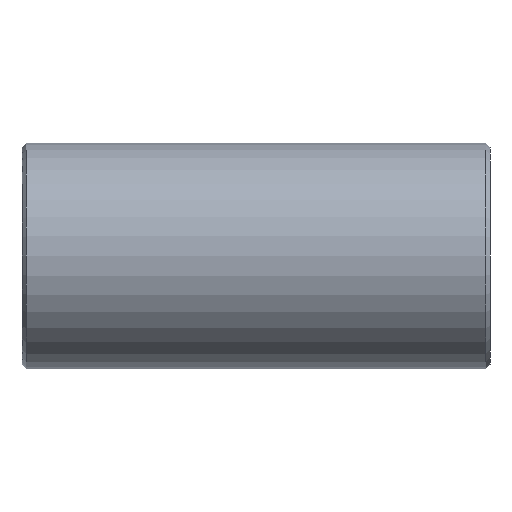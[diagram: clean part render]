
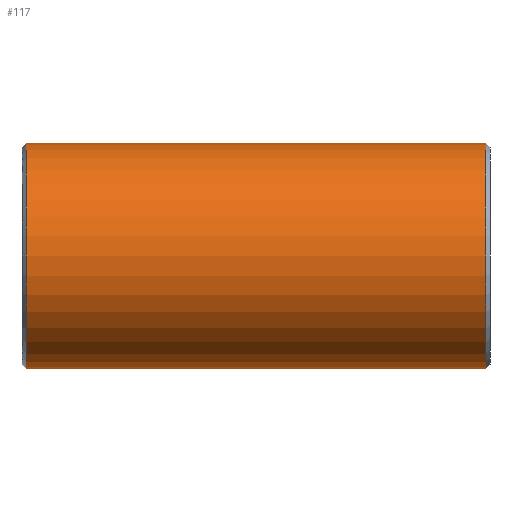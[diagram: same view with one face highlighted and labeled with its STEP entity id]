
A CAD part, front view. The second image highlights one B-rep face of the part: STEP entity #117.
In plain terms, the highlighted cylindrical face has radius 13 mm (diameter 26 mm), a full revolution.
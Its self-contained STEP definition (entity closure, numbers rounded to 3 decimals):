
#27=FACE_OUTER_BOUND('',#36,.T.);
#36=EDGE_LOOP('',(#97,#98,#99,#100));
#44=LINE('',#221,#50);
#50=VECTOR('',#187,13.);
#57=CIRCLE('',#152,13.);
#58=CIRCLE('',#154,13.);
#65=VERTEX_POINT('',#215);
#66=VERTEX_POINT('',#219);
#75=EDGE_CURVE('',#65,#65,#57,.T.);
#77=EDGE_CURVE('',#66,#66,#58,.T.);
#78=EDGE_CURVE('',#66,#65,#44,.T.);
#97=ORIENTED_EDGE('',*,*,#77,.F.);
#98=ORIENTED_EDGE('',*,*,#78,.T.);
#99=ORIENTED_EDGE('',*,*,#75,.T.);
#100=ORIENTED_EDGE('',*,*,#78,.F.);
#112=CYLINDRICAL_SURFACE('',#153,13.);
#117=ADVANCED_FACE('',(#27),#112,.T.);
#152=AXIS2_PLACEMENT_3D('',#216,#180,#181);
#153=AXIS2_PLACEMENT_3D('',#218,#183,#184);
#154=AXIS2_PLACEMENT_3D('',#220,#185,#186);
#180=DIRECTION('center_axis',(1.,0.,0.));
#181=DIRECTION('ref_axis',(0.,0.,-1.));
#183=DIRECTION('center_axis',(1.,0.,0.));
#184=DIRECTION('ref_axis',(0.,1.,0.));
#185=DIRECTION('center_axis',(1.,0.,0.));
#186=DIRECTION('ref_axis',(0.,0.,-1.));
#187=DIRECTION('',(-1.,0.,0.));
#215=CARTESIAN_POINT('',(0.5,-13.,0.));
#216=CARTESIAN_POINT('Origin',(0.5,0.,0.));
#218=CARTESIAN_POINT('Origin',(27.,0.,0.));
#219=CARTESIAN_POINT('',(53.5,-13.,0.));
#220=CARTESIAN_POINT('Origin',(53.5,0.,0.));
#221=CARTESIAN_POINT('',(27.,-13.,0.));
